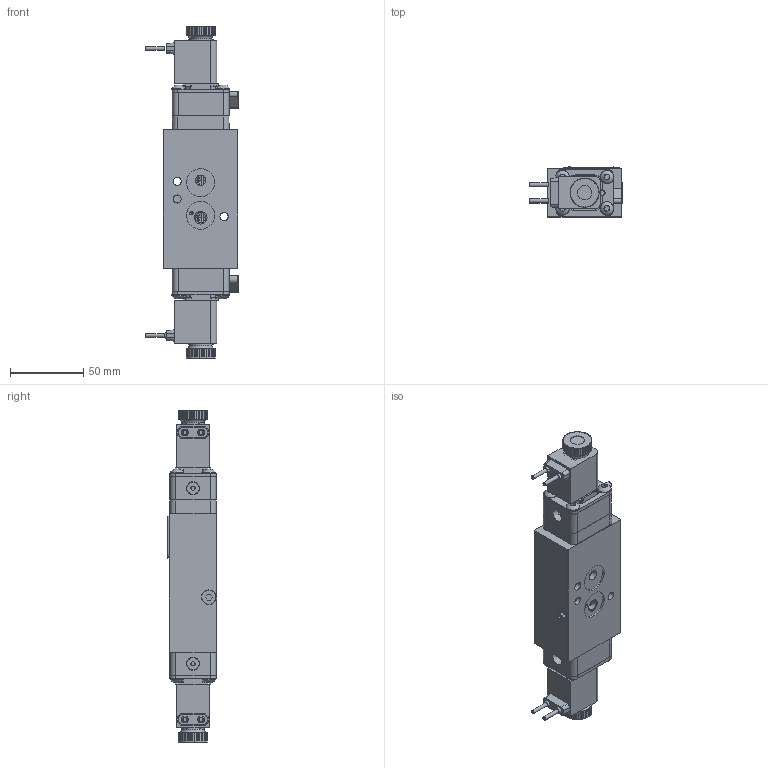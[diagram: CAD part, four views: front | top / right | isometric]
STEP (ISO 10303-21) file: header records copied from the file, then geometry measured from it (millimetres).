
FILE_DESCRIPTION(/* description */ (''),/* implementation_level */ '2;1');
FILE_NAME(/* name */ 'NSY2MOLZ.stp',/* time_stamp */ '2026-09-10T17:29:27-04:00',/* author */ ('rmckenna'),/* organization */ (''),/* preprocessor_version */ 'ST-DEVELOPER v20.2',/* originating_system */ 'Autodesk Inventor 2027',/* authorisation */ '');
FILE_SCHEMA (('AUTOMOTIVE_DESIGN { 1 0 10303 214 3 1 1 }'));
Products named in the file (1): Part45
Bounding box: 63.24 x 34.06 x 226.41 mm (x, y, z)
Volume: 218479.9 mm3; surface area: 84582.8 mm2
Topology: 2 solids, 26 shells, 2434 faces, 6155 edges, 3949 vertices
Faces by surface type: plane 1176, cylinder 697, cone 261, torus 182, bspline 108, sphere 10
Full cylindrical faces by diameter (mm): 1.3 x2, 1.397 x2, 1.5 x3, 2.032 x8, 2.07 x2, 2.261 x2, 2.35 x8, 2.388 x2, 2.5 x2, 2.54 x4, 2.778 x2, 2.8 x2, 3 x8, 3.048 x1, 3.175 x1, 3.4 x2, 3.683 x11, 4.191 x4, 4.305 x1, 4.826 x8, 5.15 x8, 5.156 x8, 5.5 x2, 5.512 x1, 5.556 x2, 6.65 x2, 6.731 x1, 6.9 x1, 7.087 x1, 7.137 x3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
Entity records: 80256 total; most frequent: CARTESIAN_POINT 18818, ORIENTED_EDGE 12282, DIRECTION 12261, EDGE_CURVE 6141, AXIS2_PLACEMENT_3D 4537, VERTEX_POINT 3947, LINE 3187, VECTOR 3187
